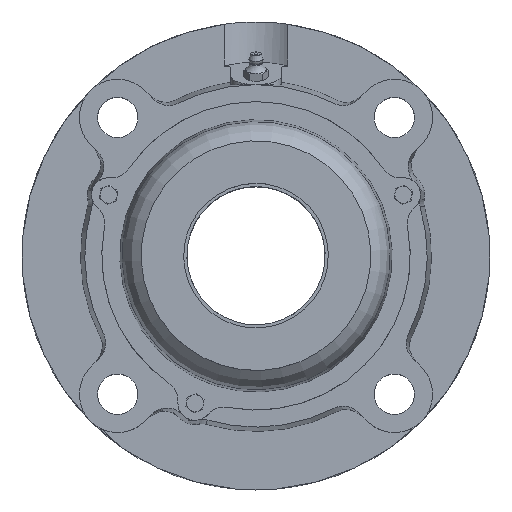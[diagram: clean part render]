
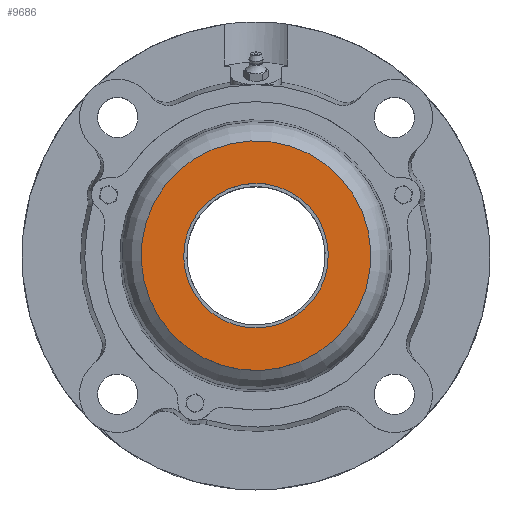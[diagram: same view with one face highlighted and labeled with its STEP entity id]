
A CAD part, top view. The second image highlights one B-rep face of the part: STEP entity #9686.
In plain terms, the highlighted planar face has unit normal (0, 0, 1).
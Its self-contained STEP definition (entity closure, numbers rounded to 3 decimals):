
#8951=CARTESIAN_POINT('',(34.0,0.,47.0));
#8952=VERTEX_POINT('',#8951);
#8953=CARTESIAN_POINT('',(0.0,0.0,47.0));
#8954=DIRECTION('',(0.0,0.0,-1.0));
#8955=DIRECTION('',(-1.0,0.0,0.0));
#8956=AXIS2_PLACEMENT_3D('',#8953,#8954,#8955);
#8957=CIRCLE('',#8956,34.0);
#8958=EDGE_CURVE('',#8952,#8952,#8957,.T.);
#9591=CARTESIAN_POINT('',(0.0,54.0,47.));
#9592=VERTEX_POINT('',#9591);
#9593=CARTESIAN_POINT('',(0.0,0.,47.));
#9594=DIRECTION('',(0.0,0.0,1.0));
#9595=DIRECTION('',(0.0,1.0,0.0));
#9596=AXIS2_PLACEMENT_3D('',#9593,#9594,#9595);
#9597=CIRCLE('',#9596,54.);
#9598=EDGE_CURVE('',#9592,#9592,#9597,.T.);
#9675=CARTESIAN_POINT('',(0.,76.291,47.0));
#9676=DIRECTION('',(0.0,0.0,1.0));
#9677=DIRECTION('',(1.0,0.0,0.0));
#9678=AXIS2_PLACEMENT_3D('',#9675,#9676,#9677);
#9679=PLANE('',#9678);
#9680=ORIENTED_EDGE('',*,*,#9598,.T.);
#9681=EDGE_LOOP('',(#9680));
#9682=FACE_OUTER_BOUND('',#9681,.T.);
#9683=ORIENTED_EDGE('',*,*,#8958,.T.);
#9684=EDGE_LOOP('',(#9683));
#9685=FACE_BOUND('',#9684,.T.);
#9686=ADVANCED_FACE('',(#9682,#9685),#9679,.T.);
